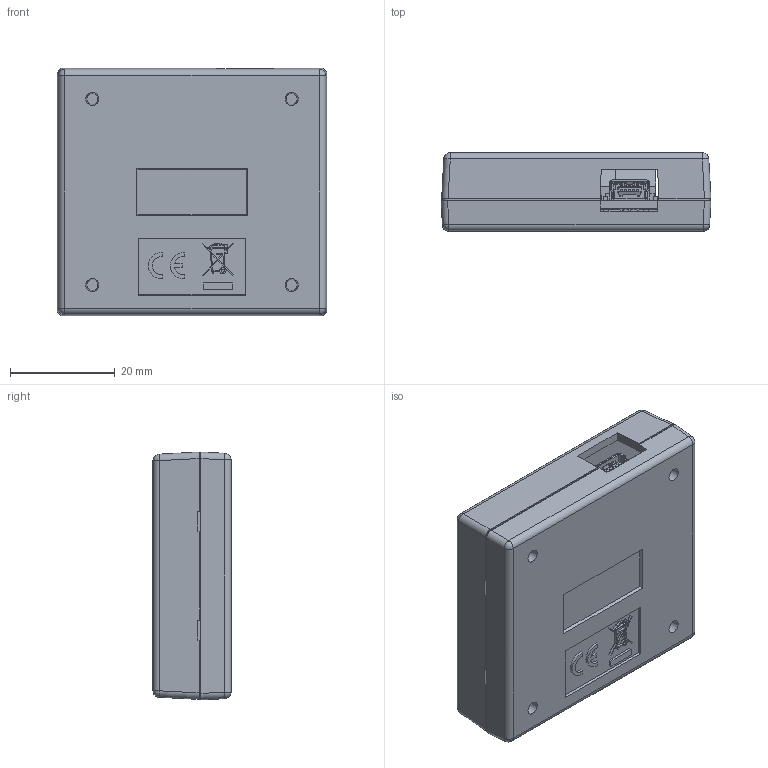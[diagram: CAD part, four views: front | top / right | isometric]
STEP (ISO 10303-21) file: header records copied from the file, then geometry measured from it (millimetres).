
FILE_DESCRIPTION(/* description */ ('Alibre Inc.'),/* implementation_level */ '2;1');
FILE_NAME(/* name */ 'export0',/* time_stamp */ '2018-08-10T13:08:25-06:00',/* author */ (''),/* organization */ (''),/* preprocessor_version */ 'ST-DEVELOPER v17',/* originating_system */ 'Alibre',/* authorisation */ '');
FILE_SCHEMA (('CONFIG_CONTROL_DESIGN'));
Length unit declared in the file: centimetre
Products named in the file (91): ID_1; ID_2; ID_3; ID_4; ID_5; ID_6; ID_7; ID_8; ID_9; ID_10; ID_11; ID_12; ID_13; ID_14; ID_15; ID_16; ID_17; ID_18; ID_19
Bounding box: 51.56 x 14.9 x 47.37 mm (x, y, z)
Volume: 15368.9 mm3; surface area: 21740.6 mm2
Topology: 65 solids, 65 shells, 1843 faces, 4783 edges, 3074 vertices
Faces by surface type: plane 1420, cylinder 318, bspline 33, cone 32, revolution 32, sphere 8
Full cylindrical faces by diameter (mm): 0.381 x4, 0.6 x5, 0.8 x5, 1.321 x8, 3.124 x4, 3.175 x4
Entity records: 46686 total; most frequent: CARTESIAN_POINT 8507, ORIENTED_EDGE 6040, DIRECTION 5082, EDGE_CURVE 3020, VECTOR 2451, LINE 2451, VERTEX_POINT 1972, AXIS2_PLACEMENT_3D 1716
